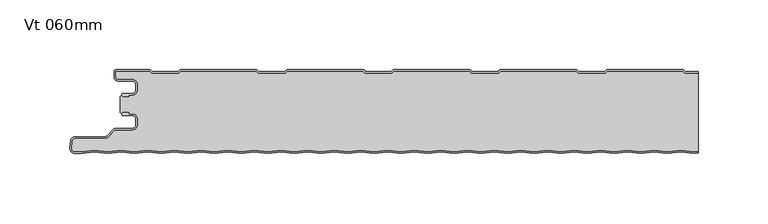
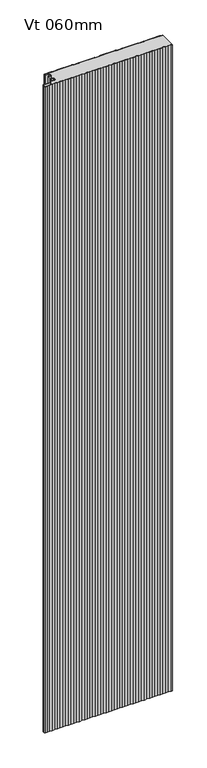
"""IFC4 building model written with IfcOpenShell, lengths in millimetres: plate geometry, KIP-MEX-KSS-1067-R19-CP-Vt-MR_SL : Vt 060mm."""

from ifc_helpers import new_model, si_unit, point, frame, frame_2d, origin, origin_with_axes, place, context, project, spatial, polyline, circle_curve, trimmed, segment, composite_curve, outline, extrude, source, transform, mapped, element, save
from ifc_brep_helpers import plane_surface, cylinder_surface, revolved_surface, advanced_brep


def vt_060mm_25a03f9c(model_context):
    return source(origin(), model_context, "Body", "SolidModel", [
        advanced_brep(
        [(-204.468691, -17.0015159, 2400.0), (-205.4686883, -18.0015191, 2400.0), (-204.468691, -19.0015105, 2400.0), (-200.4684874, -19.0015105, 2400.0), (-200.4684874, -18.0015159, 2400.0), (-197.7762776, -18.0015159, 2400.0), (-194.4762819, -14.7015202, 2400.0), (-194.4762819, -10.301529, 2400.0), (-197.7762774, -7.0015335, 2400.0), (-208.1962563, -7.0015335, 2400.0), (-209.9662505, -5.2315393, 2400.0), (-209.9662505, -0.9999916, 2400.0), (-185.4659738, -0.9999916, 2400.0), (-184.0803312, -2.2002307, 2400.0), (-164.7051649, -2.2002307, 2400.0), (-163.319532, -1.0, 2400.0), (-109.2661166, -1.0, 2400.0), (-107.8804836, -2.2002307, 2400.0), (-88.5053173, -2.2002307, 2400.0), (-87.1196844, -1.0, 2400.0), (-33.066269, -1.0, 2400.0), (-31.680636, -2.2002307, 2400.0), (-12.3054697, -2.2002307, 2400.0), (-10.9198368, -1.0, 2400.0), (43.1335786, -1.0, 2400.0), (44.5192116, -2.2002307, 2400.0), (63.8943779, -2.2002307, 2400.0), (65.2800108, -1.0, 2400.0), (119.3334262, -1.0, 2400.0), (120.7190592, -2.2002307, 2400.0), (140.0942255, -2.2002307, 2400.0), (141.4798584, -1.0, 2400.0), (195.5332738, -1.0, 2400.0), (196.9189068, -2.2002307, 2400.0), (206.4999998, -2.2002307, 2400.0), (206.4999998, -1.2002307, 2400.0), (197.2917872, -1.2002307, 2400.0), (196.3007396, -0.3417885, 2400.0), (195.3841227, 0.0, 2400.0), (141.6290096, 0.0, 2400.0), (140.7123927, -0.3417885, 2400.0), (139.7213451, -1.2002307, 2400.0), (121.0919396, -1.2002307, 2400.0), (120.100892, -0.3417885, 2400.0), (119.1842751, 0.0, 2400.0), (65.429162, 0.0, 2400.0), (64.5125451, -0.3417885, 2400.0), (63.5214975, -1.2002307, 2400.0), (44.892092, -1.2002307, 2400.0), (43.9010444, -0.3417885, 2400.0), (42.9844275, 0.0, 2400.0), (-10.7706856, 0.0, 2400.0), (-11.6873025, -0.3417885, 2400.0), (-12.6783501, -1.2002307, 2400.0), (-31.3077556, -1.2002307, 2400.0), (-32.2988032, -0.3417885, 2400.0), (-33.2154201, 0.0, 2400.0), (-86.9705332, 0.0, 2400.0), (-87.8871501, -0.3417885, 2400.0), (-88.8781977, -1.2002307, 2400.0), (-107.5076032, -1.2002307, 2400.0), (-108.4986508, -0.3417885, 2400.0), (-109.4152677, 0.0, 2400.0), (-163.1703808, 0.0, 2400.0), (-164.0869977, -0.3417885, 2400.0), (-165.0780453, -1.2002307, 2400.0), (-183.7074508, -1.2002307, 2400.0), (-184.6984984, -0.3417885, 2400.0), (-185.6152067, 0.0, 2400.0), (-209.5662543, 8.4e-06, 2400.0), (-210.9662505, -1.3999878, 2400.0), (-210.9662505, -5.2315393, 2400.0), (-208.1962563, -8.0015335, 2400.0), (-197.7762774, -8.0015335, 2400.0), (-195.4762819, -10.301529, 2400.0), (-195.4762819, -14.7015202, 2400.0), (-197.7762776, -17.0015159, 2400.0), (-204.468691, -17.0015159, 0.0), (-197.7762776, -17.0015159, 0.0), (-195.4762819, -14.7015202, 0.0), (-195.4762819, -10.301529, 0.0), (-197.7762774, -8.0015335, 0.0), (-208.1962563, -8.0015335, 0.0), (-210.9662505, -5.2315393, 0.0), (-210.9662505, -1.3999878, 0.0), (-209.5662543, 8.4e-06, 0.0), (-185.6151153, 8.4e-06, 0.0), (-184.6984984, -0.3417885, 0.0), (-183.7074508, -1.2002307, 0.0), (-165.0780453, -1.2002307, 0.0), (-164.0869977, -0.3417885, 0.0), (-163.1703808, 0.0, 0.0), (-109.4152677, 0.0, 0.0), (-108.4986508, -0.3417885, 0.0), (-107.5076032, -1.2002307, 0.0), (-88.8781977, -1.2002307, 0.0), (-87.8871501, -0.3417885, 0.0), (-86.9705332, 0.0, 0.0), (-33.2154201, 0.0, 0.0), (-32.2988032, -0.3417885, 0.0), (-31.3077556, -1.2002307, 0.0), (-12.6783501, -1.2002307, 0.0), (-11.6873025, -0.3417885, 0.0), (-10.7706856, 0.0, 0.0), (42.9844275, 0.0, 0.0), (43.9010444, -0.3417885, 0.0), (44.892092, -1.2002307, 0.0), (63.5214975, -1.2002307, 0.0), (64.5125451, -0.3417885, 0.0), (65.429162, 0.0, 0.0), (119.1842751, 0.0, 0.0), (120.100892, -0.3417885, 0.0), (121.0919396, -1.2002307, 0.0), (139.7213451, -1.2002307, 0.0), (140.7123927, -0.3417885, 0.0), (141.6290096, 0.0, 0.0), (195.3841227, 0.0, 0.0), (196.3007396, -0.3417885, 0.0), (197.2917872, -1.2002307, 0.0), (206.4999998, -1.2002307, 0.0), (206.4999998, -2.2002307, 0.0), (196.9189068, -2.2002307, 0.0), (195.5332738, -1.0, 0.0), (141.4798584, -1.0, 0.0), (140.0942255, -2.2002307, 0.0), (120.7190592, -2.2002307, 0.0), (119.3334262, -1.0, 0.0), (65.2800108, -1.0, 0.0), (63.8943779, -2.2002307, 0.0), (44.5192116, -2.2002307, 0.0), (43.1335786, -1.0, 0.0), (-10.9198368, -1.0, 0.0), (-12.3054697, -2.2002307, 0.0), (-31.680636, -2.2002307, 0.0), (-33.066269, -1.0, 0.0), (-87.1196844, -1.0, 0.0), (-88.5053173, -2.2002307, 0.0), (-107.8804836, -2.2002307, 0.0), (-109.2661166, -1.0, 0.0), (-163.319532, -1.0, 0.0), (-164.7051649, -2.2002307, 0.0), (-184.0803312, -2.2002307, 0.0), (-185.4659738, -0.9999916, 0.0), (-209.9662505, -0.9999916, 0.0), (-209.9662505, -5.2315393, 0.0), (-208.1962563, -7.0015335, 0.0), (-197.7762774, -7.0015335, 0.0), (-194.4762819, -10.301529, 0.0), (-194.4762819, -14.7015202, 0.0), (-197.7762776, -18.0015159, 0.0), (-200.4684874, -18.0015159, 0.0), (-200.4684874, -19.0015105, 0.0), (-204.468691, -19.0015105, 0.0), (-205.4686882, -18.0015192, 0.0)],
        [
            (0, 1, circle_curve(frame((-204.468691, -18.0015132, 2400.0), z_axis=(0.0, 0.0, 1.0), x_axis=(1.0, 0.0, 0.0)), 0.9999973)),
            (1, 2, circle_curve(frame((-204.468691, -18.0015133, 2400.0), z_axis=(0.0, 0.0, 1.0), x_axis=(1.0, 0.0, 0.0)), 0.9999972)),
            (2, 3),
            (3, 4),
            (4, 5),
            (5, 6, circle_curve(frame((-197.7762776, -14.7015202, 2400.0), z_axis=(0.0, 0.0, 1.0), x_axis=(1.0, 0.0, 0.0)), 3.2999957)),
            (6, 7),
            (7, 8, circle_curve(frame((-197.7762774, -10.301529, 2400.0), z_axis=(0.0, 0.0, 1.0), x_axis=(1.0, 0.0, 0.0)), 3.2999955)),
            (8, 9),
            (9, 10, circle_curve(frame((-208.1962563, -5.2315393, 2400.0), z_axis=(0.0, 0.0, -1.0), x_axis=(1.0, 0.0, 0.0)), 1.7699942)),
            (10, 11),
            (11, 12),
            (12, 13),
            (13, 14),
            (14, 15),
            (15, 16),
            (16, 17),
            (17, 18),
            (18, 19),
            (19, 20),
            (20, 21),
            (21, 22),
            (22, 23),
            (23, 24),
            (24, 25),
            (25, 26),
            (26, 27),
            (27, 28),
            (28, 29),
            (29, 30),
            (30, 31),
            (31, 32),
            (32, 33),
            (33, 34),
            (34, 35),
            (35, 36),
            (36, 37),
            (37, 38, circle_curve(frame((195.3841227, -1.3999972, 2400.0), z_axis=(0.0, 0.0, 1.0), x_axis=(1.0, 0.0, 0.0)), 1.3999972)),
            (38, 39),
            (39, 40, circle_curve(frame((141.6290096, -1.3999972, 2400.0), z_axis=(0.0, 0.0, 1.0), x_axis=(1.0, 0.0, 0.0)), 1.3999972)),
            (40, 41),
            (41, 42),
            (42, 43),
            (43, 44, circle_curve(frame((119.1842751, -1.3999972, 2400.0), z_axis=(0.0, 0.0, 1.0), x_axis=(1.0, 0.0, 0.0)), 1.3999972)),
            (44, 45),
            (45, 46, circle_curve(frame((65.429162, -1.3999972, 2400.0), z_axis=(0.0, 0.0, 1.0), x_axis=(1.0, 0.0, 0.0)), 1.3999972)),
            (46, 47),
            (47, 48),
            (48, 49),
            (49, 50, circle_curve(frame((42.9844275, -1.3999972, 2400.0), z_axis=(0.0, 0.0, 1.0), x_axis=(1.0, 0.0, 0.0)), 1.3999972)),
            (50, 51),
            (51, 52, circle_curve(frame((-10.7706856, -1.3999972, 2400.0), z_axis=(0.0, 0.0, 1.0), x_axis=(1.0, 0.0, 0.0)), 1.3999972)),
            (52, 53),
            (53, 54),
            (54, 55),
            (55, 56, circle_curve(frame((-33.2154201, -1.3999972, 2400.0), z_axis=(0.0, 0.0, 1.0), x_axis=(1.0, 0.0, 0.0)), 1.3999972)),
            (56, 57),
            (57, 58, circle_curve(frame((-86.9705332, -1.3999972, 2400.0), z_axis=(0.0, 0.0, 1.0), x_axis=(1.0, 0.0, 0.0)), 1.3999972)),
            (58, 59),
            (59, 60),
            (60, 61),
            (61, 62, circle_curve(frame((-109.4152677, -1.3999972, 2400.0), z_axis=(0.0, 0.0, 1.0), x_axis=(1.0, 0.0, 0.0)), 1.3999972)),
            (62, 63),
            (63, 64, circle_curve(frame((-163.1703808, -1.3999972, 2400.0), z_axis=(0.0, 0.0, 1.0), x_axis=(1.0, 0.0, 0.0)), 1.3999972)),
            (64, 65),
            (65, 66),
            (66, 67),
            (67, 68, circle_curve(frame((-185.6151153, -1.3999972, 2400.0), z_axis=(0.0, 0.0, 1.0), x_axis=(1.0, 0.0, 0.0)), 1.3999972)),
            (68, 69),
            (69, 70, circle_curve(frame((-209.5662543, -1.3999878, 2400.0), z_axis=(0.0, 0.0, 1.0), x_axis=(1.0, 0.0, 0.0)), 1.3999962)),
            (70, 71),
            (71, 72, circle_curve(frame((-208.1962563, -5.2315393, 2400.0), z_axis=(0.0, 0.0, 1.0), x_axis=(1.0, 0.0, 0.0)), 2.7699942)),
            (72, 73),
            (73, 74, circle_curve(frame((-197.7762774, -10.301529, 2400.0), z_axis=(0.0, 0.0, -1.0), x_axis=(1.0, 0.0, 0.0)), 2.2999955)),
            (74, 75),
            (75, 76, circle_curve(frame((-197.7762776, -14.7015202, 2400.0), z_axis=(0.0, 0.0, -1.0), x_axis=(1.0, 0.0, 0.0)), 2.2999957)),
            (76, 0),
            (77, 78),
            (78, 79, circle_curve(frame((-197.7762776, -14.7015202, 0.0), z_axis=(0.0, 0.0, 1.0), x_axis=(1.0, 0.0, 0.0)), 2.2999957)),
            (79, 80),
            (80, 81, circle_curve(frame((-197.7762774, -10.301529, 0.0), z_axis=(0.0, 0.0, 1.0), x_axis=(1.0, 0.0, 0.0)), 2.2999955)),
            (81, 82),
            (82, 83, circle_curve(frame((-208.1962563, -5.2315393, 0.0), z_axis=(0.0, 0.0, -1.0), x_axis=(1.0, 0.0, 0.0)), 2.7699942)),
            (83, 84),
            (84, 85, circle_curve(frame((-209.5662543, -1.3999878, 0.0), z_axis=(0.0, 0.0, -1.0), x_axis=(1.0, 0.0, 0.0)), 1.3999962)),
            (85, 86),
            (86, 87, circle_curve(frame((-185.6151153, -1.3999972, 0.0), z_axis=(0.0, 0.0, -1.0), x_axis=(1.0, 0.0, 0.0)), 1.3999972)),
            (87, 88),
            (88, 89),
            (89, 90),
            (90, 91, circle_curve(frame((-163.1703808, -1.3999972, 0.0), z_axis=(0.0, 0.0, -1.0), x_axis=(1.0, 0.0, 0.0)), 1.3999972)),
            (91, 92),
            (92, 93, circle_curve(frame((-109.4152677, -1.3999972, 0.0), z_axis=(0.0, 0.0, -1.0), x_axis=(1.0, 0.0, 0.0)), 1.3999972)),
            (93, 94),
            (94, 95),
            (95, 96),
            (96, 97, circle_curve(frame((-86.9705332, -1.3999972, 0.0), z_axis=(0.0, 0.0, -1.0), x_axis=(1.0, 0.0, 0.0)), 1.3999972)),
            (97, 98),
            (98, 99, circle_curve(frame((-33.2154201, -1.3999972, 0.0), z_axis=(0.0, 0.0, -1.0), x_axis=(1.0, 0.0, 0.0)), 1.3999972)),
            (99, 100),
            (100, 101),
            (101, 102),
            (102, 103, circle_curve(frame((-10.7706856, -1.3999972, 0.0), z_axis=(0.0, 0.0, -1.0), x_axis=(1.0, 0.0, 0.0)), 1.3999972)),
            (103, 104),
            (104, 105, circle_curve(frame((42.9844275, -1.3999972, 0.0), z_axis=(0.0, 0.0, -1.0), x_axis=(1.0, 0.0, 0.0)), 1.3999972)),
            (105, 106),
            (106, 107),
            (107, 108),
            (108, 109, circle_curve(frame((65.429162, -1.3999972, 0.0), z_axis=(0.0, 0.0, -1.0), x_axis=(1.0, 0.0, 0.0)), 1.3999972)),
            (109, 110),
            (110, 111, circle_curve(frame((119.1842751, -1.3999972, 0.0), z_axis=(0.0, 0.0, -1.0), x_axis=(1.0, 0.0, 0.0)), 1.3999972)),
            (111, 112),
            (112, 113),
            (113, 114),
            (114, 115, circle_curve(frame((141.6290096, -1.3999972, 0.0), z_axis=(0.0, 0.0, -1.0), x_axis=(1.0, 0.0, 0.0)), 1.3999972)),
            (115, 116),
            (116, 117, circle_curve(frame((195.3841227, -1.3999972, 0.0), z_axis=(0.0, 0.0, -1.0), x_axis=(1.0, 0.0, 0.0)), 1.3999972)),
            (117, 118),
            (118, 119),
            (119, 120),
            (120, 121),
            (121, 122),
            (122, 123),
            (123, 124),
            (124, 125),
            (125, 126),
            (126, 127),
            (127, 128),
            (128, 129),
            (129, 130),
            (130, 131),
            (131, 132),
            (132, 133),
            (133, 134),
            (134, 135),
            (135, 136),
            (136, 137),
            (137, 138),
            (138, 139),
            (139, 140),
            (140, 141),
            (141, 142),
            (142, 143),
            (143, 144),
            (144, 145, circle_curve(frame((-208.1962563, -5.2315393, 0.0), z_axis=(0.0, 0.0, 1.0), x_axis=(1.0, 0.0, 0.0)), 1.7699942)),
            (145, 146),
            (146, 147, circle_curve(frame((-197.7762774, -10.301529, 0.0), z_axis=(0.0, 0.0, -1.0), x_axis=(1.0, 0.0, 0.0)), 3.2999955)),
            (147, 148),
            (148, 149, circle_curve(frame((-197.7762776, -14.7015202, 0.0), z_axis=(0.0, 0.0, -1.0), x_axis=(1.0, 0.0, 0.0)), 3.2999957)),
            (149, 150),
            (150, 151),
            (151, 152),
            (152, 153, circle_curve(frame((-204.468691, -18.0015133, 0.0), z_axis=(0.0, 0.0, -1.0), x_axis=(1.0, 0.0, 0.0)), 0.9999972)),
            (153, 77, circle_curve(frame((-204.468691, -18.0015132, 0.0), z_axis=(0.0, 0.0, -1.0), x_axis=(1.0, 0.0, 0.0)), 0.9999973)),
            (76, 78),
            (77, 0),
            (75, 79),
            (74, 80),
            (73, 81),
            (72, 82),
            (71, 83),
            (70, 84),
            (69, 85),
            (68, 86),
            (67, 87),
            (66, 88),
            (65, 89),
            (64, 90),
            (63, 91),
            (62, 92),
            (61, 93),
            (60, 94),
            (59, 95),
            (58, 96),
            (57, 97),
            (56, 98),
            (55, 99),
            (54, 100),
            (53, 101),
            (52, 102),
            (51, 103),
            (50, 104),
            (49, 105),
            (48, 106),
            (47, 107),
            (46, 108),
            (45, 109),
            (44, 110),
            (43, 111),
            (42, 112),
            (41, 113),
            (40, 114),
            (39, 115),
            (38, 116),
            (37, 117),
            (36, 118),
            (35, 119),
            (120, 34),
            (33, 121),
            (32, 122),
            (31, 123),
            (30, 124),
            (29, 125),
            (28, 126),
            (27, 127),
            (26, 128),
            (25, 129),
            (24, 130),
            (23, 131),
            (22, 132),
            (21, 133),
            (20, 134),
            (19, 135),
            (18, 136),
            (17, 137),
            (16, 138),
            (15, 139),
            (14, 140),
            (13, 141),
            (12, 142),
            (11, 143),
            (10, 144),
            (9, 145),
            (8, 146),
            (7, 147),
            (6, 148),
            (5, 149),
            (4, 150),
            (3, 151),
            (2, 152),
            (1, 153),
        ],
        [
            plane_surface(frame((326.9000002, 0.0, 2400.0), z_axis=(0.0, 0.0, 1.0), x_axis=(0.0, 1.0, 0.0))),
            plane_surface(frame((326.9000002, 0.0, 0.0), z_axis=(0.0, 0.0, -1.0), x_axis=(0.0, 1.0, 0.0))),
            plane_surface(frame((-204.468691, -17.0015159, 2400.0), z_axis=(0.0, 1.0, 0.0), x_axis=(0.0, 0.0, -1.0))),
            revolved_surface(polyline([(-195.47628189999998, -14.7015202, 0.0), (-195.47628189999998, -14.7015202, 2400.0)]), (-197.7762776, -14.7015202, 2400.0), (0.0, 0.0, -1.0)),
            plane_surface(frame((-195.4762819, -14.7015202, 2400.0), z_axis=(-1.0, 0.0, 0.0), x_axis=(0.0, 0.0, -1.0))),
            revolved_surface(polyline([(-195.4762819, -10.301529, 0.0), (-195.4762819, -10.301529, 2400.0)]), (-197.7762774, -10.301529, 2400.0), (0.0, 0.0, -1.0)),
            plane_surface(frame((-197.7762774, -8.0015335, 2400.0), z_axis=(0.0, -1.0, 0.0), x_axis=(0.0, 0.0, -1.0))),
            cylinder_surface(frame((-208.1962563, -5.2315393, 2400.0), z_axis=(0.0, 0.0, 1.0), x_axis=(1.0, 0.0, 0.0)), 2.7699942),
            plane_surface(frame((-210.9662505, -5.2315393, 2400.0), z_axis=(-1.0, 0.0, 0.0), x_axis=(0.0, 0.0, -1.0))),
            cylinder_surface(frame((-209.5662543, -1.3999878, 2400.0), z_axis=(0.0, 0.0, 1.0), x_axis=(1.0, 0.0, 0.0)), 1.3999962),
            plane_surface(frame((-209.5662543, 8.4e-06, 2400.0), z_axis=(0.0, 1.0, 0.0), x_axis=(0.0, 0.0, -1.0))),
            cylinder_surface(frame((-185.6151153, -1.3999972, 2400.0), z_axis=(0.0, 0.0, 1.0), x_axis=(1.0, 0.0, 0.0)), 1.3999972),
            plane_surface(frame((-184.6984984, -0.3417885, 2400.0), z_axis=(0.6547276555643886, 0.755864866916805, 0.0), x_axis=(0.0, 0.0, -1.0))),
            plane_surface(frame((-174.3927481, -1.2002307, 2400.0), z_axis=(0.0, 1.0, 0.0), x_axis=(0.0, 0.0, -1.0))),
            plane_surface(frame((-165.0780453, -1.2002307, 2400.0), z_axis=(-0.6547276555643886, 0.755864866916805, 0.0), x_axis=(0.0, 0.0, -1.0))),
            cylinder_surface(frame((-163.1703808, -1.3999972, 2400.0), z_axis=(0.0, 0.0, 1.0), x_axis=(1.0, 0.0, 0.0)), 1.3999972),
            plane_surface(frame((-163.1703808, 0.0, 2400.0), z_axis=(0.0, 1.0, 0.0), x_axis=(0.0, 0.0, -1.0))),
            cylinder_surface(frame((-109.4152677, -1.3999972, 2400.0), z_axis=(0.0, 0.0, 1.0), x_axis=(1.0, 0.0, 0.0)), 1.3999972),
            plane_surface(frame((-108.4986508, -0.3417885, 2400.0), z_axis=(0.6547276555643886, 0.755864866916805, 0.0), x_axis=(0.0, 0.0, -1.0))),
            plane_surface(frame((-98.1929005, -1.2002307, 2400.0), z_axis=(0.0, 1.0, 0.0), x_axis=(0.0, 0.0, -1.0))),
            plane_surface(frame((-88.8781977, -1.2002307, 2400.0), z_axis=(-0.6547276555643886, 0.755864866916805, 0.0), x_axis=(0.0, 0.0, -1.0))),
            cylinder_surface(frame((-86.9705332, -1.3999972, 2400.0), z_axis=(0.0, 0.0, 1.0), x_axis=(1.0, 0.0, 0.0)), 1.3999972),
            plane_surface(frame((-86.9705332, 0.0, 2400.0), z_axis=(0.0, 1.0, 0.0), x_axis=(0.0, 0.0, -1.0))),
            cylinder_surface(frame((-33.2154201, -1.3999972, 2400.0), z_axis=(0.0, 0.0, 1.0), x_axis=(1.0, 0.0, 0.0)), 1.3999972),
            plane_surface(frame((-32.2988032, -0.3417885, 2400.0), z_axis=(0.6547276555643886, 0.755864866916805, 0.0), x_axis=(0.0, 0.0, -1.0))),
            plane_surface(frame((-21.9930529, -1.2002307, 2400.0), z_axis=(0.0, 1.0, 0.0), x_axis=(0.0, 0.0, -1.0))),
            plane_surface(frame((-12.6783501, -1.2002307, 2400.0), z_axis=(-0.6547276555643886, 0.755864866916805, 0.0), x_axis=(0.0, 0.0, -1.0))),
            cylinder_surface(frame((-10.7706856, -1.3999972, 2400.0), z_axis=(0.0, 0.0, 1.0), x_axis=(1.0, 0.0, 0.0)), 1.3999972),
            plane_surface(frame((-10.7706856, 0.0, 2400.0), z_axis=(0.0, 1.0, 0.0), x_axis=(0.0, 0.0, -1.0))),
            cylinder_surface(frame((42.9844275, -1.3999972, 2400.0), z_axis=(0.0, 0.0, 1.0), x_axis=(1.0, 0.0, 0.0)), 1.3999972),
            plane_surface(frame((43.9010444, -0.3417885, 2400.0), z_axis=(0.6547276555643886, 0.755864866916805, 0.0), x_axis=(0.0, 0.0, -1.0))),
            plane_surface(frame((54.2067947, -1.2002307, 2400.0), z_axis=(0.0, 1.0, 0.0), x_axis=(0.0, 0.0, -1.0))),
            plane_surface(frame((63.5214975, -1.2002307, 2400.0), z_axis=(-0.6547276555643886, 0.755864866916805, 0.0), x_axis=(0.0, 0.0, -1.0))),
            cylinder_surface(frame((65.429162, -1.3999972, 2400.0), z_axis=(0.0, 0.0, 1.0), x_axis=(1.0, 0.0, 0.0)), 1.3999972),
            plane_surface(frame((65.429162, 0.0, 2400.0), z_axis=(0.0, 1.0, 0.0), x_axis=(0.0, 0.0, -1.0))),
            cylinder_surface(frame((119.1842751, -1.3999972, 2400.0), z_axis=(0.0, 0.0, 1.0), x_axis=(1.0, 0.0, 0.0)), 1.3999972),
            plane_surface(frame((120.100892, -0.3417885, 2400.0), z_axis=(0.6547276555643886, 0.755864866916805, 0.0), x_axis=(0.0, 0.0, -1.0))),
            plane_surface(frame((130.4066423, -1.2002307, 2400.0), z_axis=(0.0, 1.0, 0.0), x_axis=(0.0, 0.0, -1.0))),
            plane_surface(frame((139.7213451, -1.2002307, 2400.0), z_axis=(-0.6547276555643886, 0.755864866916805, 0.0), x_axis=(0.0, 0.0, -1.0))),
            cylinder_surface(frame((141.6290096, -1.3999972, 2400.0), z_axis=(0.0, 0.0, 1.0), x_axis=(1.0, 0.0, 0.0)), 1.3999972),
            plane_surface(frame((141.6290096, 0.0, 2400.0), z_axis=(0.0, 1.0, 0.0), x_axis=(0.0, 0.0, -1.0))),
            cylinder_surface(frame((195.3841227, -1.3999972, 2400.0), z_axis=(0.0, 0.0, 1.0), x_axis=(1.0, 0.0, 0.0)), 1.3999972),
            plane_surface(frame((196.3007396, -0.3417885, 2400.0), z_axis=(0.6547276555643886, 0.755864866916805, 0.0), x_axis=(0.0, 0.0, -1.0))),
            plane_surface(frame((206.6064899, -1.2002307, 2400.0), z_axis=(0.0, 1.0, 0.0), x_axis=(0.0, 0.0, -1.0))),
            plane_surface(frame((216.2940731, -2.2002307, 2400.0), z_axis=(0.0, -1.0, 0.0), x_axis=(0.0, 0.0, -1.0))),
            plane_surface(frame((196.9189068, -2.2002307, 2400.0), z_axis=(-0.6547276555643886, -0.755864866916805, 0.0), x_axis=(0.0, 0.0, -1.0))),
            plane_surface(frame((195.5332738, -1.0, 2400.0), z_axis=(0.0, -1.0, 0.0), x_axis=(0.0, 0.0, -1.0))),
            plane_surface(frame((141.4798584, -1.0, 2400.0), z_axis=(0.6547276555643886, -0.755864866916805, 0.0), x_axis=(0.0, 0.0, -1.0))),
            plane_surface(frame((140.0942255, -2.2002307, 2400.0), z_axis=(0.0, -1.0, 0.0), x_axis=(0.0, 0.0, -1.0))),
            plane_surface(frame((120.7190592, -2.2002307, 2400.0), z_axis=(-0.6547276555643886, -0.755864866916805, 0.0), x_axis=(0.0, 0.0, -1.0))),
            plane_surface(frame((119.3334262, -1.0, 2400.0), z_axis=(0.0, -1.0, 0.0), x_axis=(0.0, 0.0, -1.0))),
            plane_surface(frame((65.2800108, -1.0, 2400.0), z_axis=(0.6547276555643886, -0.755864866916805, 0.0), x_axis=(0.0, 0.0, -1.0))),
            plane_surface(frame((63.8943779, -2.2002307, 2400.0), z_axis=(0.0, -1.0, 0.0), x_axis=(0.0, 0.0, -1.0))),
            plane_surface(frame((44.5192116, -2.2002307, 2400.0), z_axis=(-0.6547276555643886, -0.755864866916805, 0.0), x_axis=(0.0, 0.0, -1.0))),
            plane_surface(frame((43.1335786, -1.0, 2400.0), z_axis=(0.0, -1.0, 0.0), x_axis=(0.0, 0.0, -1.0))),
            plane_surface(frame((-10.9198368, -1.0, 2400.0), z_axis=(0.6547276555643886, -0.755864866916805, 0.0), x_axis=(0.0, 0.0, -1.0))),
            plane_surface(frame((-12.3054697, -2.2002307, 2400.0), z_axis=(0.0, -1.0, 0.0), x_axis=(0.0, 0.0, -1.0))),
            plane_surface(frame((-31.680636, -2.2002307, 2400.0), z_axis=(-0.6547276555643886, -0.755864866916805, 0.0), x_axis=(0.0, 0.0, -1.0))),
            plane_surface(frame((-33.066269, -1.0, 2400.0), z_axis=(0.0, -1.0, 0.0), x_axis=(0.0, 0.0, -1.0))),
            plane_surface(frame((-87.1196844, -1.0, 2400.0), z_axis=(0.6547276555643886, -0.755864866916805, 0.0), x_axis=(0.0, 0.0, -1.0))),
            plane_surface(frame((-88.5053173, -2.2002307, 2400.0), z_axis=(0.0, -1.0, 0.0), x_axis=(0.0, 0.0, -1.0))),
            plane_surface(frame((-107.8804836, -2.2002307, 2400.0), z_axis=(-0.6547276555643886, -0.755864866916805, 0.0), x_axis=(0.0, 0.0, -1.0))),
            plane_surface(frame((-109.2661166, -1.0, 2400.0), z_axis=(0.0, -1.0, 0.0), x_axis=(0.0, 0.0, -1.0))),
            plane_surface(frame((-163.319532, -1.0, 2400.0), z_axis=(0.6547276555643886, -0.755864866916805, 0.0), x_axis=(0.0, 0.0, -1.0))),
            plane_surface(frame((-164.7051649, -2.2002307, 2400.0), z_axis=(0.0, -1.0, 0.0), x_axis=(0.0, 0.0, -1.0))),
            plane_surface(frame((-184.0803312, -2.2002307, 2400.0), z_axis=(-0.6547276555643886, -0.755864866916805, 0.0), x_axis=(0.0, 0.0, -1.0))),
            plane_surface(frame((-185.4659738, -0.9999916, 2400.0), z_axis=(0.0, -1.0, 0.0), x_axis=(0.0, 0.0, -1.0))),
            plane_surface(frame((-209.9662505, -0.9999916, 2400.0), z_axis=(1.0, 0.0, 0.0), x_axis=(0.0, 0.0, -1.0))),
            revolved_surface(polyline([(-206.42626209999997, -5.2315393, 0.0), (-206.42626209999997, -5.2315393, 2400.0)]), (-208.1962563, -5.2315393, 2400.0), (0.0, 0.0, -1.0)),
            plane_surface(frame((-208.1962563, -7.0015335, 2400.0), z_axis=(0.0, 1.0, 0.0), x_axis=(0.0, 0.0, -1.0))),
            cylinder_surface(frame((-197.7762774, -10.301529, 2400.0), z_axis=(0.0, 0.0, 1.0), x_axis=(1.0, 0.0, 0.0)), 3.2999955),
            plane_surface(frame((-194.4762819, -10.301529, 2400.0), z_axis=(1.0, 0.0, 0.0), x_axis=(0.0, 0.0, -1.0))),
            cylinder_surface(frame((-197.7762776, -14.7015202, 2400.0), z_axis=(0.0, 0.0, 1.0), x_axis=(1.0, 0.0, 0.0)), 3.2999957),
            plane_surface(frame((-197.7762776, -18.0015159, 2400.0), z_axis=(0.0, -1.0, 0.0), x_axis=(0.0, 0.0, -1.0))),
            plane_surface(frame((-200.4684874, -18.0015159, 2400.0), z_axis=(1.0, 0.0, 0.0), x_axis=(0.0, 0.0, -1.0))),
            plane_surface(frame((-200.4684874, -19.0015105, 2400.0), z_axis=(0.0, -1.0, 0.0), x_axis=(0.0, 0.0, -1.0))),
            cylinder_surface(frame((-204.468691, -18.0015133, 2400.0), z_axis=(0.0, 0.0, 1.0), x_axis=(1.0, 0.0, 0.0)), 0.9999972),
            cylinder_surface(frame((-204.468691, -18.0015132, 2400.0), z_axis=(0.0, 0.0, 1.0), x_axis=(1.0, 0.0, 0.0)), 0.9999973),
            plane_surface(frame((206.4999998, -70.0, 2400.0), z_axis=(1.0, 0.0, 0.0), x_axis=(0.0, 0.0, -1.0))),
        ],
        [
            (0, [[1, 2, 3, 4, 5, 6, 7, 8, 9, 10, 11, 12, 13, 14, 15, 16, 17, 18, 19, 20, 21, 22, 23, 24, 25, 26, 27, 28, 29, 30, 31, 32, 33, 34, 35, 36, 37, 38, 39, 40, 41, 42, 43, 44, 45, 46, 47, 48, 49, 50, 51, 52, 53, 54, 55, 56, 57, 58, 59, 60, 61, 62, 63, 64, 65, 66, 67, 68, 69, 70, 71, 72, 73, 74, 75, 76, 77]]),
            (1, [[78, 79, 80, 81, 82, 83, 84, 85, 86, 87, 88, 89, 90, 91, 92, 93, 94, 95, 96, 97, 98, 99, 100, 101, 102, 103, 104, 105, 106, 107, 108, 109, 110, 111, 112, 113, 114, 115, 116, 117, 118, 119, 120, 121, 122, 123, 124, 125, 126, 127, 128, 129, 130, 131, 132, 133, 134, 135, 136, 137, 138, 139, 140, 141, 142, 143, 144, 145, 146, 147, 148, 149, 150, 151, 152, 153, 154]]),
            (2, [[155, -78, 156, -77]]),
            (3, [[157, -79, -155, -76]]),
            (4, [[158, -80, -157, -75]]),
            (5, [[159, -81, -158, -74]]),
            (6, [[160, -82, -159, -73]]),
            (7, [[161, -83, -160, -72]]),
            (8, [[162, -84, -161, -71]]),
            (9, [[163, -85, -162, -70]]),
            (10, [[164, -86, -163, -69]]),
            (11, [[165, -87, -164, -68]]),
            (12, [[166, -88, -165, -67]]),
            (13, [[167, -89, -166, -66]]),
            (14, [[168, -90, -167, -65]]),
            (15, [[169, -91, -168, -64]]),
            (16, [[170, -92, -169, -63]]),
            (17, [[171, -93, -170, -62]]),
            (18, [[172, -94, -171, -61]]),
            (19, [[173, -95, -172, -60]]),
            (20, [[174, -96, -173, -59]]),
            (21, [[175, -97, -174, -58]]),
            (22, [[176, -98, -175, -57]]),
            (23, [[177, -99, -176, -56]]),
            (24, [[178, -100, -177, -55]]),
            (25, [[179, -101, -178, -54]]),
            (26, [[180, -102, -179, -53]]),
            (27, [[181, -103, -180, -52]]),
            (28, [[182, -104, -181, -51]]),
            (29, [[183, -105, -182, -50]]),
            (30, [[184, -106, -183, -49]]),
            (31, [[185, -107, -184, -48]]),
            (32, [[186, -108, -185, -47]]),
            (33, [[187, -109, -186, -46]]),
            (34, [[188, -110, -187, -45]]),
            (35, [[189, -111, -188, -44]]),
            (36, [[190, -112, -189, -43]]),
            (37, [[191, -113, -190, -42]]),
            (38, [[192, -114, -191, -41]]),
            (39, [[193, -115, -192, -40]]),
            (40, [[194, -116, -193, -39]]),
            (41, [[195, -117, -194, -38]]),
            (42, [[196, -118, -195, -37]]),
            (43, [[-36, 197, -119, -196]]),
            (44, [[-121, 198, -34, 199]]),
            (45, [[200, -122, -199, -33]]),
            (46, [[201, -123, -200, -32]]),
            (47, [[202, -124, -201, -31]]),
            (48, [[203, -125, -202, -30]]),
            (49, [[204, -126, -203, -29]]),
            (50, [[205, -127, -204, -28]]),
            (51, [[206, -128, -205, -27]]),
            (52, [[207, -129, -206, -26]]),
            (53, [[208, -130, -207, -25]]),
            (54, [[209, -131, -208, -24]]),
            (55, [[210, -132, -209, -23]]),
            (56, [[211, -133, -210, -22]]),
            (57, [[212, -134, -211, -21]]),
            (58, [[213, -135, -212, -20]]),
            (59, [[214, -136, -213, -19]]),
            (60, [[215, -137, -214, -18]]),
            (61, [[216, -138, -215, -17]]),
            (62, [[217, -139, -216, -16]]),
            (63, [[218, -140, -217, -15]]),
            (64, [[219, -141, -218, -14]]),
            (65, [[220, -142, -219, -13]]),
            (66, [[221, -143, -220, -12]]),
            (67, [[222, -144, -221, -11]]),
            (68, [[223, -145, -222, -10]]),
            (69, [[224, -146, -223, -9]]),
            (70, [[225, -147, -224, -8]]),
            (71, [[226, -148, -225, -7]]),
            (72, [[227, -149, -226, -6]]),
            (73, [[228, -150, -227, -5]]),
            (74, [[229, -151, -228, -4]]),
            (75, [[230, -152, -229, -3]]),
            (76, [[231, -153, -230, -2]]),
            (77, [[-156, -154, -231, -1]]),
            (78, [[-198, -120, -197, -35]]),
        ],
    ),
        extrude(outline(composite_curve([segment(polyline([(-215.4442791, -60.0), (-224.96926, -58.9411849), (-234.2447635, -59.9722676), (-238.9498353, -59.9722676)]), True, "CONTINUOUS"), segment(trimmed(circle_curve(frame_2d((-238.9521993, -56.4022755)), 3.5699929), [point((-238.9498353, -59.9722676))], [point((-242.5086073, -56.0911302))], False, "CARTESIAN"), True, "CONTINUOUS"), segment(polyline([(-242.5086073, -56.0911302), (-242.0690674, -51.0671659)]), True, "CONTINUOUS"), segment(trimmed(circle_curve(frame_2d((-238.4198391, -51.677967)), 3.6999926), [point((-242.0690674, -51.0671659))], [point((-238.4198391, -47.9779744))], False, "CARTESIAN"), True, "CONTINUOUS"), segment(polyline([(-238.4198391, -47.9779744), (-217.2773995, -47.9779744)]), True, "CONTINUOUS"), segment(trimmed(circle_curve(frame_2d((-217.2773995, -46.677977)), 1.2999974), [point((-217.2773995, -47.9779744))], [point((-216.3581626, -47.597214))], True, "CARTESIAN"), True, "CONTINUOUS"), segment(polyline([(-216.3581626, -47.597214), (-211.5297451, -42.7687965)]), True, "CONTINUOUS"), segment(trimmed(circle_curve(frame_2d((-209.6205606, -44.677981)), 2.6999946), [point((-211.5297451, -42.7687965))], [point((-209.6205606, -41.9779864))], False, "CARTESIAN"), True, "CONTINUOUS"), segment(polyline([(-209.6205606, -41.9779864), (-197.8096715, -41.9779864)]), True, "CONTINUOUS"), segment(trimmed(circle_curve(frame_2d((-197.8096715, -39.6279911)), 2.3499953), [point((-197.8096715, -41.9779864))], [point((-195.4596762, -39.6279911))], True, "CARTESIAN"), True, "CONTINUOUS"), segment(polyline([(-195.4596762, -39.6279911), (-195.4596762, -35.2279999)]), True, "CONTINUOUS"), segment(trimmed(circle_curve(frame_2d((-197.8096715, -35.2279999)), 2.3499953), [point((-195.4596762, -35.2279999))], [point((-197.8096715, -32.8780046))], True, "CARTESIAN"), True, "CONTINUOUS"), segment(polyline([(-197.8096715, -32.8780046), (-204.3289777, -32.8780046)]), True, "CONTINUOUS"), segment(trimmed(circle_curve(frame_2d((-204.2686906, -31.6795224)), 1.1999976), [point((-204.3289777, -32.8780046))], [point((-205.4682903, -31.6486225))], False, "CARTESIAN"), True, "CONTINUOUS"), segment(trimmed(circle_curve(frame_2d((-204.2686906, -31.6795224)), 1.1999976), [point((-205.4682903, -31.6486225))], [point((-204.267176, -30.4795257))], False, "CARTESIAN"), True, "CONTINUOUS"), segment(polyline([(-204.267176, -30.4795257), (-200.5087826, -30.4795257), (-200.5087826, -31.8780046), (-197.8096715, -31.8780046)]), True, "CONTINUOUS"), segment(trimmed(circle_curve(frame_2d((-197.8096715, -35.2279999)), 3.3499953), [point((-197.8096715, -31.8780046))], [point((-194.4596762, -35.2279999))], False, "CARTESIAN"), True, "CONTINUOUS"), segment(polyline([(-194.4596762, -35.2279999), (-194.4596762, -39.6279911)]), True, "CONTINUOUS"), segment(trimmed(circle_curve(frame_2d((-197.8096715, -39.6279911)), 3.3499953), [point((-194.4596762, -39.6279911))], [point((-197.8096715, -42.9779864))], False, "CARTESIAN"), True, "CONTINUOUS"), segment(polyline([(-197.8096715, -42.9779864), (-209.6205606, -42.9779864)]), True, "CONTINUOUS"), segment(trimmed(circle_curve(frame_2d((-209.6205606, -44.677981)), 1.6999946), [point((-209.6205606, -42.9779864))], [point((-210.8226383, -43.4759033))], True, "CARTESIAN"), True, "CONTINUOUS"), segment(polyline([(-210.8226383, -43.4759033), (-215.6510558, -48.3043208)]), True, "CONTINUOUS"), segment(trimmed(circle_curve(frame_2d((-217.2773995, -46.677977)), 2.2999974), [point((-215.6510558, -48.3043208))], [point((-217.2773995, -48.9779744))], False, "CARTESIAN"), True, "CONTINUOUS"), segment(polyline([(-217.2773995, -48.9779744), (-238.4198391, -48.9779744)]), True, "CONTINUOUS"), segment(trimmed(circle_curve(frame_2d((-238.4198391, -51.677967)), 2.6999926), [point((-238.4198391, -48.9779744))], [point((-241.0765683, -51.1965632))], True, "CARTESIAN"), True, "CONTINUOUS"), segment(polyline([(-241.0765683, -51.1965632), (-241.5124126, -56.1782859)]), True, "CONTINUOUS"), segment(trimmed(circle_curve(frame_2d((-238.9521993, -56.4022755)), 2.5699929), [point((-241.5124126, -56.1782859))], [point((-238.9501935, -58.9722676))], True, "CARTESIAN"), True, "CONTINUOUS"), segment(polyline([(-238.9501935, -58.9722676), (-234.3001738, -58.9722676), (-224.96926, -57.9350254), (-215.4442791, -58.9938405), (-205.9192981, -57.9350254), (-196.3943172, -58.9938405), (-186.8693362, -57.9350254), (-177.3443553, -58.9938405), (-167.8193743, -57.9350254), (-158.2943934, -58.9938405), (-148.7694124, -57.9350254), (-139.2444315, -58.9938405), (-129.7194505, -57.9350254), (-120.1944696, -58.9938405), (-110.6694886, -57.9350254), (-101.1445077, -58.9938405), (-91.6195267, -57.9350254), (-82.0945458, -58.9938405), (-72.5695648, -57.9350254), (-63.0445839, -58.9938405), (-53.5196029, -57.9350254), (-43.994622, -58.9938405), (-34.469641, -57.9350254), (-24.9446601, -58.9938405), (-15.4196791, -57.9350254), (-5.8946982, -58.9938405), (3.6302828, -57.9350254), (13.1552637, -58.9938405), (22.6802447, -57.9350254), (32.2052256, -58.9938405), (41.7302066, -57.9350254), (51.2551875, -58.9938405), (60.7801685, -57.9350254), (70.3051494, -58.9938405), (79.8301304, -57.9350254), (89.3551113, -58.9938405), (98.8800923, -57.9350254), (108.4050732, -58.9938405), (117.9300542, -57.9350254), (127.4550351, -58.9938405), (136.9800161, -57.9350254), (146.504997, -58.9938405), (156.029978, -57.9350254), (165.5549589, -58.9938405), (175.0799399, -57.9350254), (184.6049208, -58.9938405), (194.1299018, -57.9350254), (203.6548827, -58.9938405), (206.4999998, -58.6775718), (206.4999998, -59.6837313), (203.6548827, -60.0), (194.1299018, -58.9411849), (184.6049208, -60.0), (175.0799399, -58.9411849), (165.5549589, -60.0), (156.029978, -58.9411849), (146.504997, -60.0), (136.9800161, -58.9411849), (127.4550351, -60.0), (117.9300542, -58.9411849), (108.4050732, -60.0), (98.8800923, -58.9411849), (89.3551113, -60.0), (79.8301304, -58.9411849), (70.3051494, -60.0), (60.7801685, -58.9411849), (51.2551875, -60.0), (41.7302066, -58.9411849), (32.2052256, -60.0), (22.6802447, -58.9411849), (13.1552637, -60.0), (3.6302828, -58.9411849), (-5.8946982, -60.0), (-15.4196791, -58.9411849), (-24.9446601, -60.0), (-34.469641, -58.9411849), (-43.994622, -60.0), (-53.5196029, -58.9411849), (-63.0445839, -60.0), (-72.5695648, -58.9411849), (-82.0945458, -60.0), (-91.6195267, -58.9411849), (-101.1445077, -60.0), (-110.6694886, -58.9411849), (-120.1944696, -60.0), (-129.7194505, -58.9411849), (-139.2444315, -60.0), (-148.7694124, -58.9411849), (-158.2943934, -60.0), (-167.8193743, -58.9411849), (-177.3443553, -60.0), (-186.8693362, -58.9411849), (-196.3943172, -60.0), (-205.9192981, -58.9411849), (-215.4442791, -60.0)]), True, "CONTINUOUS")], self_intersect=False)), origin_with_axes(), (0.0, 0.0, 1.0), 2400.0),
        extrude(outline(composite_curve([segment(trimmed(circle_curve(frame_2d((-197.8096715, -35.2341594)), 3.3499953), [point((-194.4596762, -35.2341594))], [point((-197.8096715, -31.8841641))], True, "CARTESIAN"), True, "CONTINUOUS"), segment(polyline([(-197.8096715, -31.8841641), (-200.5087826, -31.8841641), (-200.5087826, -30.4856852), (-204.267176, -30.4856852)]), True, "CONTINUOUS"), segment(trimmed(circle_curve(frame_2d((-204.2686906, -31.6856819)), 1.1999976), [point((-204.267176, -30.4856852))], [point((-205.4682903, -31.654782))], True, "CARTESIAN"), True, "CONTINUOUS"), segment(polyline([(-205.4682903, -31.654782), (-206.4999998, -30.6230724), (-206.4999998, -19.0328308), (-205.4686882, -18.0015192)]), True, "CONTINUOUS"), segment(trimmed(circle_curve(frame_2d((-204.468691, -18.0015133)), 0.9999972), [point((-205.4686882, -18.0015192))], [point((-204.468691, -19.0015105))], True, "CARTESIAN"), True, "CONTINUOUS"), segment(polyline([(-204.468691, -19.0015105), (-200.4684873, -19.0015105), (-200.4684873, -18.0015159), (-197.7762775, -18.0015159)]), True, "CONTINUOUS"), segment(trimmed(circle_curve(frame_2d((-197.7762775, -14.7015202)), 3.2999957), [point((-197.7762775, -18.0015159))], [point((-194.4762818, -14.7015202))], True, "CARTESIAN"), True, "CONTINUOUS"), segment(polyline([(-194.4762818, -14.7015202), (-194.4762818, -10.301529)]), True, "CONTINUOUS"), segment(trimmed(circle_curve(frame_2d((-197.7762777, -10.301529)), 3.2999959), [point((-194.4762818, -10.301529))], [point((-197.7762777, -7.0015331))], True, "CARTESIAN"), True, "CONTINUOUS"), segment(polyline([(-197.7762777, -7.0015331), (-208.1962562, -7.0015331)]), True, "CONTINUOUS"), segment(trimmed(circle_curve(frame_2d((-208.1962562, -5.2315389)), 1.7699942), [point((-208.1962562, -7.0015331))], [point((-209.9662504, -5.2315389))], False, "CARTESIAN"), True, "CONTINUOUS"), segment(polyline([(-209.9662504, -5.2315389), (-209.9662504, -0.9999916), (-185.4659738, -0.9999916), (-184.0803312, -2.2002307), (-164.7051649, -2.2002307), (-163.3195319, -1.0), (-109.2661165, -1.0), (-107.8804836, -2.2002307), (-88.5053173, -2.2002307), (-87.1196843, -1.0), (-33.0662689, -1.0), (-31.680636, -2.2002307), (-12.3054697, -2.2002307), (-10.9198367, -1.0), (43.1335787, -1.0), (44.5192116, -2.2002307), (63.8943779, -2.2002307), (65.2800109, -1.0), (119.3334263, -1.0), (120.7190592, -2.2002307), (140.0942255, -2.2002307), (141.4798585, -1.0), (195.5332739, -1.0), (196.9189068, -2.2002307), (206.4999998, -2.2002307), (206.4999998, -58.6837313), (203.6548827, -59.0), (194.1299018, -57.9411849), (184.6049208, -59.0), (175.0799399, -57.9411849), (165.5549589, -59.0), (156.029978, -57.9411849), (146.504997, -59.0), (136.9800161, -57.9411849), (127.4550351, -59.0), (117.9300542, -57.9411849), (108.4050732, -59.0), (98.8800923, -57.9411849), (89.3551113, -59.0), (79.8301304, -57.9411849), (70.3051494, -59.0), (60.7801685, -57.9411849), (51.2551875, -59.0), (41.7302066, -57.9411849), (32.2052256, -59.0), (22.6802447, -57.9411849), (13.1552637, -59.0), (3.6302828, -57.9411849), (-5.8946982, -59.0), (-15.4196791, -57.9411849), (-24.9446601, -59.0), (-34.469641, -57.9411849), (-43.994622, -59.0), (-53.5196029, -57.9411849), (-63.0445839, -59.0), (-72.5695648, -57.9411849), (-82.0945458, -59.0), (-91.6195267, -57.9411849), (-101.1445077, -59.0), (-110.6694886, -57.9411849), (-120.1944696, -59.0), (-129.7194505, -57.9411849), (-139.2444315, -59.0), (-148.7694124, -57.9411849), (-158.2943934, -59.0), (-167.8193743, -57.9411849), (-177.3443553, -59.0), (-186.8693362, -57.9411849), (-196.3943172, -59.0), (-205.9192981, -57.9411849), (-215.4442791, -59.0), (-224.96926, -57.9411849), (-234.3001738, -58.9784271), (-238.9501935, -58.9784271)]), True, "CONTINUOUS"), segment(trimmed(circle_curve(frame_2d((-238.9521993, -56.4084351)), 2.5699929), [point((-238.9501935, -58.9784271))], [point((-241.5124126, -56.1844454))], False, "CARTESIAN"), True, "CONTINUOUS"), segment(polyline([(-241.5124126, -56.1844454), (-241.0765683, -51.2027227)]), True, "CONTINUOUS"), segment(trimmed(circle_curve(frame_2d((-238.4198391, -51.6841265)), 2.6999926), [point((-241.0765683, -51.2027227))], [point((-238.4198391, -48.9841339))], False, "CARTESIAN"), True, "CONTINUOUS"), segment(polyline([(-238.4198391, -48.9841339), (-217.2773995, -48.9841339)]), True, "CONTINUOUS"), segment(trimmed(circle_curve(frame_2d((-217.2773995, -46.6841365)), 2.2999974), [point((-217.2773995, -48.9841339))], [point((-215.6510558, -48.3104803))], True, "CARTESIAN"), True, "CONTINUOUS"), segment(polyline([(-215.6510558, -48.3104803), (-210.8226383, -43.4820628)]), True, "CONTINUOUS"), segment(trimmed(circle_curve(frame_2d((-209.6205606, -44.6841405)), 1.6999946), [point((-210.8226383, -43.4820628))], [point((-209.6205606, -42.9841459))], False, "CARTESIAN"), True, "CONTINUOUS"), segment(polyline([(-209.6205606, -42.9841459), (-197.8096715, -42.9841459)]), True, "CONTINUOUS"), segment(trimmed(circle_curve(frame_2d((-197.8096715, -39.6341506)), 3.3499953), [point((-197.8096715, -42.9841459))], [point((-194.4596762, -39.6341506))], True, "CARTESIAN"), True, "CONTINUOUS"), segment(polyline([(-194.4596762, -39.6341506), (-194.4596762, -35.2341594)]), True, "CONTINUOUS")], self_intersect=False)), origin_with_axes(), (0.0, 0.0, 1.0), 2400.0),
    ])


if __name__ == "__main__":
    model = new_model("IFC4")
    model_context = context("Model", 3, world=origin())
    ifc_project = project(units=[si_unit("LENGTHUNIT", "METRE", prefix="MILLI")], contexts=[model_context])
    site = spatial("IfcSite", under=ifc_project)
    building = spatial("IfcBuilding", under=site)
    placement = place(None, origin())
    vt_060mm_shape = vt_060mm_25a03f9c(model_context)
    element("IfcPlate", 1, ObjectType="KIP-MEX-KSS-1067-R19-CP-Vt-MR_SL : Vt 060mm", at=placement, inside=building, context=model_context, shape_type="MappedRepresentation", body=[
        mapped(vt_060mm_shape, transform((0.0, 0.0, 0.0), x_axis=(1.0, 0.0, 0.0), y_axis=(0.0, 1.0, 0.0), z_axis=(0.0, 0.0, 1.0))),
    ])
    save(model, "model.ifc")
